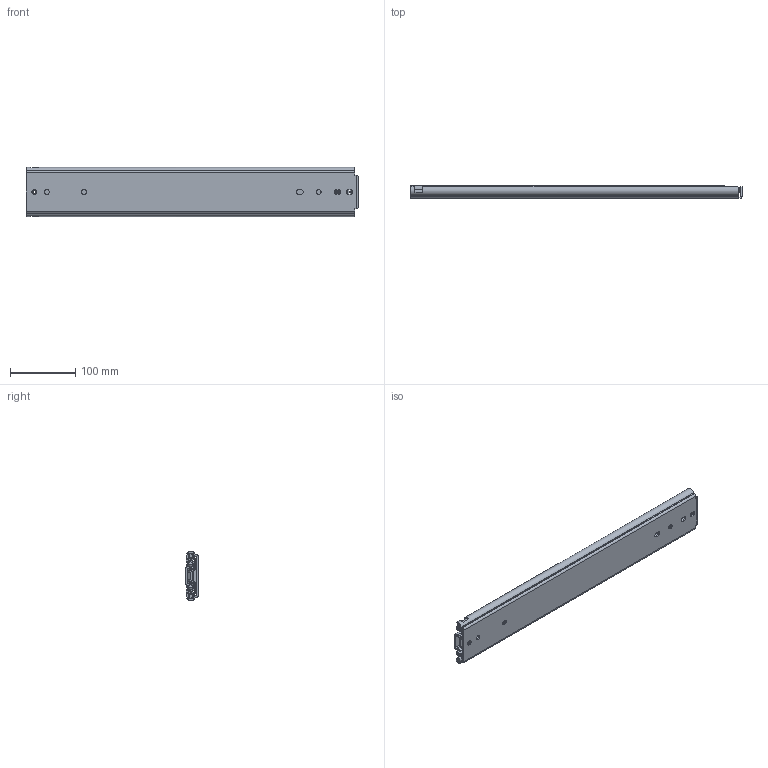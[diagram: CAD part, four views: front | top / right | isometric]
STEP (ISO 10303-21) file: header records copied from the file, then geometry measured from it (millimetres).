
FILE_DESCRIPTION((''),'2;1');
FILE_NAME('DG-76-02-20_ASM','2023-05-15T',('jishu015'),(''),'PRO/ENGINEER BY PARAMETRIC TECHNOLOGY CORPORATION, 2010280','PRO/ENGINEER BY PARAMETRIC TECHNOLOGY CORPORATION, 2010280','');
FILE_SCHEMA(('CONFIG_CONTROL_DESIGN'));
Length unit declared in the file: millimetre
Products named in the file (18): KP-76-04WAIKE3______________; 1076-WAIKEZIDANJIAO31__; WAIK72_______________ASM; 1076XIAOZHUTIAO1______________; 163______________; 1076XIAOZHUTIAO1_______________ASM; KP-76-04ZHONGGUI3______________; 76CHANGGUIZHONGGUIJIAO31_____; 3X6WODIN3______________; PJ-76-33______________; 76-XIAOZHUJIA3______________; GANGZHU-XIAO3______________; ZHUJIA-XIAO3_______________ASM; ZHONGGUI3_______________ASM; KP-76-04NEIGUI3______________; XIN-TANPIAN______________; NEIGUI3_______________ASM; DG-76-02-20_ASM
Assembly tree (43 placements, depth 4):
  DG-76-02-20_ASM
    WAIK72_______________ASM
      KP-76-04WAIKE3______________
      1076-WAIKEZIDANJIAO31__  x2
    1076XIAOZHUTIAO1_______________ASM  x2
      1076XIAOZHUTIAO1______________
      163______________
    ZHONGGUI3_______________ASM
      KP-76-04ZHONGGUI3______________
      76CHANGGUIZHONGGUIJIAO31_____
      3X6WODIN3______________
      PJ-76-33______________
      ZHUJIA-XIAO3_______________ASM
        76-XIAOZHUJIA3______________
        GANGZHU-XIAO3______________  x18
    NEIGUI3_______________ASM
      KP-76-04NEIGUI3______________
      XIN-TANPIAN______________
Bounding box: 508 x 19.5 x 75.3 mm (x, y, z)
Volume: 327433.7 mm3; surface area: 316013.1 mm2
Topology: 46 solids, 46 shells, 1170 faces, 3610 edges, 2301 vertices
Faces by surface type: plane 661, cylinder 394, sphere 70, extrusion 27, cone 18
Entity records: 36456 total; most frequent: CARTESIAN_POINT 7940, ORIENTED_EDGE 6192, DIRECTION 5657, EDGE_CURVE 3096, VERTEX_POINT 2029, VECTOR 1903, AXIS2_PLACEMENT_3D 1877, LINE 1876
